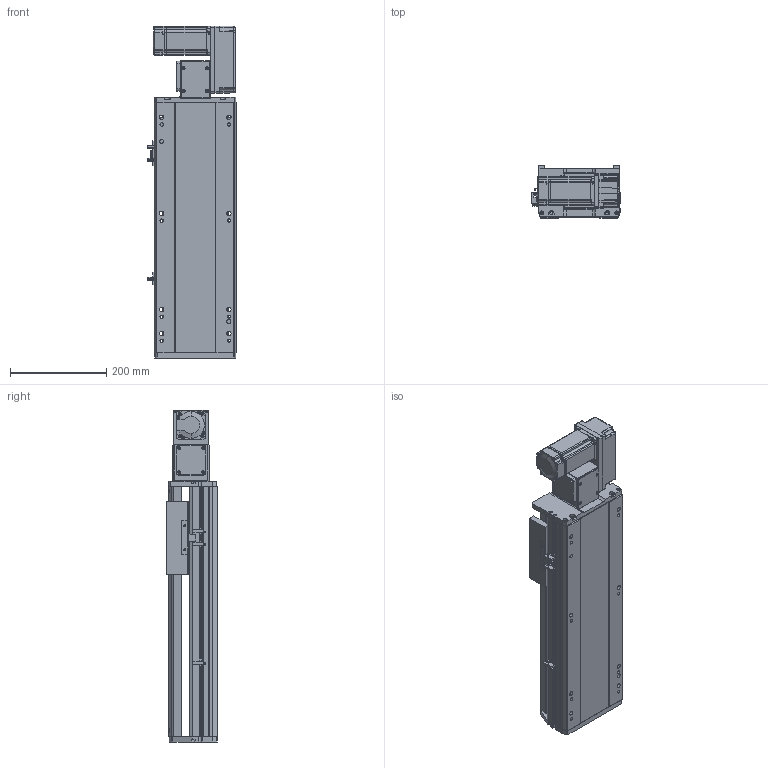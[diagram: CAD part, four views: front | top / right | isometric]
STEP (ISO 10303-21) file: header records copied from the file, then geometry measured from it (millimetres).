
FILE_DESCRIPTION (( 'STEP AP214' ), '1' );
FILE_NAME ('RTB17S-XX-250-R-M40-C4.STEP', '2025-12-11T07:31:37', ( '' ), ( '' ), 'SwSTEP 2.0', 'SolidWorks 2018', '' );
FILE_SCHEMA (( 'AUTOMOTIVE_DESIGN' ));
Length unit declared in the file: millimetre
Products named in the file (14): OMRON EE-SX672 传感器^RTB17S-XX-XX-R-M40-C4; RTB17S-L-007奻裔^RTB17S-XX-XX-R-M40-C4; RTB14-L-017P^RTB17S-R-々湍釱蚾饜-400W_RTB17S-XX-XX-R-M40-C4; RTB17-R-011菁釱^RTB17S-XX-XX-R-M40-C4; RTB17S-L-004佪裝蹟譫蟀諉釱^RTB17S-XX-XX-R-M40-C4; RTB17S-XX-250-R-M40-C4; RTB14-L-008-M20--萇儂啣^RTB17S-R-々湍釱蚾饜-400W_RTB17S-XX-XX-R-M40-C4; RTB14-L-018P^RTB17S-R-々湍釱蚾饜-400W_RTB17S-XX-XX-R-M40-C4; RTB17S-L-001耜醱啣^RTB17S-XX-XX-R-M40-C4; RTB17S-L-014-T20--々湍釱^RTB17S-R-々湍釱蚾饜-400W_RTB17S-XX-XX-R-M40-C4; RTH13-BL-012覜茼え俋离^RTB17S-XX-XX-R-M40-C4; RTB17S-R-々湍釱蚾饜-400W^RTB17S-XX-XX-R-M40-C4; 400W侜督萇儂^RTB17S-XX-XX-R-M40-C4; RTB14-L-005P--轴承塑胶压盖^RTB17S-R-皮带座装配-400W_RTB17S-XX-XX-R-M40-C4
Assembly tree (16 placements, depth 3):
  RTB17S-XX-250-R-M40-C4
    RTB17-R-011菁釱^RTB17S-XX-XX-R-M40-C4
    RTB17S-L-007奻裔^RTB17S-XX-XX-R-M40-C4
    OMRON EE-SX672 传感器^RTB17S-XX-XX-R-M40-C4  x3
    RTB17S-L-001耜醱啣^RTB17S-XX-XX-R-M40-C4
    400W侜督萇儂^RTB17S-XX-XX-R-M40-C4
    RTB17S-L-004佪裝蹟譫蟀諉釱^RTB17S-XX-XX-R-M40-C4
    RTH13-BL-012覜茼え俋离^RTB17S-XX-XX-R-M40-C4
    RTB17S-R-々湍釱蚾饜-400W^RTB17S-XX-XX-R-M40-C4
      RTB17S-L-014-T20--々湍釱^RTB17S-R-々湍釱蚾饜-400W_RTB17S-XX-XX-R-M40-C4
      RTB14-L-005P--轴承塑胶压盖^RTB17S-R-皮带座装配-400W_RTB17S-XX-XX-R-M40-C4
      RTB14-L-008-M20--萇儂啣^RTB17S-R-々湍釱蚾饜-400W_RTB17S-XX-XX-R-M40-C4
      RTB14-L-017P^RTB17S-R-々湍釱蚾饜-400W_RTB17S-XX-XX-R-M40-C4  x2
      RTB14-L-018P^RTB17S-R-々湍釱蚾饜-400W_RTB17S-XX-XX-R-M40-C4
Bounding box: 183.5 x 108 x 691 mm (x, y, z)
Volume: 6252946.2 mm3; surface area: 832894.9 mm2
Topology: 15 solids, 15 shells, 2157 faces, 5925 edges, 3861 vertices
Faces by surface type: plane 1062, cylinder 647, bspline 301, cone 139, torus 8
Entity records: 60329 total; most frequent: CARTESIAN_POINT 16730, ORIENTED_EDGE 8694, DIRECTION 8126, EDGE_CURVE 4347, VERTEX_POINT 2849, AXIS2_PLACEMENT_3D 2779, VECTOR 2568, LINE 2568
